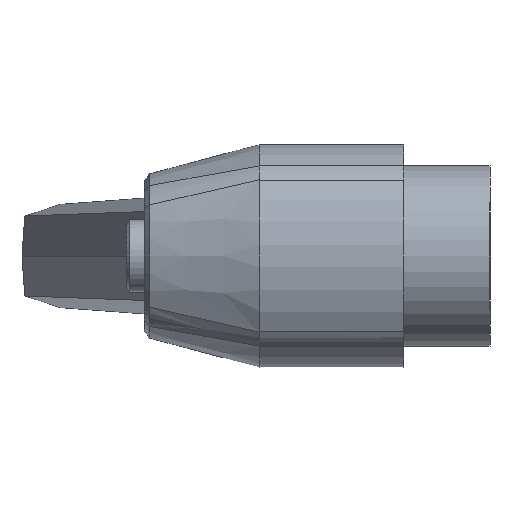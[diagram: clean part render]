
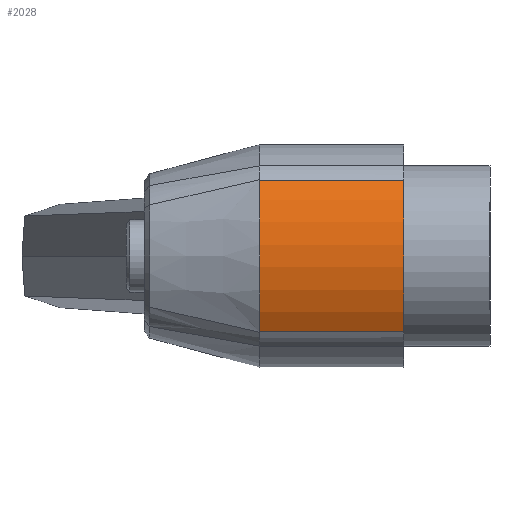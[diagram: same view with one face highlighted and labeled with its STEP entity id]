
A CAD part, left-side view. The second image highlights one B-rep face of the part: STEP entity #2028.
In plain terms, the highlighted cylindrical face has radius 20.318 mm (diameter 40.637 mm), a partial arc.
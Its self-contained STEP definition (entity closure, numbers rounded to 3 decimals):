
#76 = CARTESIAN_POINT ( 'NONE',  ( -12.555, 0., 10.536 ) ) ;
#83 = CARTESIAN_POINT ( 'NONE',  ( -12.555, 20., -10.536 ) ) ;
#126 = DIRECTION ( 'NONE',  ( 0., 0., 1. ) ) ;
#141 = LINE ( 'NONE', #659, #321 ) ;
#172 = CARTESIAN_POINT ( 'NONE',  ( -12.555, 20., -10.536 ) ) ;
#175 = CIRCLE ( 'NONE', #1437, 20.318 ) ;
#215 = VERTEX_POINT ( 'NONE', #1216 ) ;
#321 = VECTOR ( 'NONE', #694, 1000. ) ;
#360 = VECTOR ( 'NONE', #602, 1000. ) ;
#485 = DIRECTION ( 'NONE',  ( 0., 0., -1. ) ) ;
#602 = DIRECTION ( 'NONE',  ( 0., -1., 0. ) ) ;
#606 = DIRECTION ( 'NONE',  ( 0., -1., 0. ) ) ;
#645 = DIRECTION ( 'NONE',  ( 0., 1., 0. ) ) ;
#659 = CARTESIAN_POINT ( 'NONE',  ( -12.555, 20., 10.536 ) ) ;
#694 = DIRECTION ( 'NONE',  ( 0., 1., 0. ) ) ;
#714 = CARTESIAN_POINT ( 'NONE',  ( -12.555, 20., 10.536 ) ) ;
#721 = VERTEX_POINT ( 'NONE', #172 ) ;
#886 = CIRCLE ( 'NONE', #2125, 20.318 ) ;
#977 = ORIENTED_EDGE ( 'NONE', *, *, #1201, .T. ) ;
#1174 = ORIENTED_EDGE ( 'NONE', *, *, #1694, .F. ) ;
#1201 = EDGE_CURVE ( 'NONE', #2099, #1467, #141, .T. ) ;
#1216 = CARTESIAN_POINT ( 'NONE',  ( -12.555, 0., -10.536 ) ) ;
#1266 = EDGE_LOOP ( 'NONE', ( #1174, #1549, #1845, #977 ) ) ;
#1384 = EDGE_CURVE ( 'NONE', #215, #2099, #175, .T. ) ;
#1412 = CYLINDRICAL_SURFACE ( 'NONE', #1546, 20.318 ) ;
#1430 = LINE ( 'NONE', #83, #360 ) ;
#1437 = AXIS2_PLACEMENT_3D ( 'NONE', #1853, #645, #126 ) ;
#1467 = VERTEX_POINT ( 'NONE', #714 ) ;
#1497 = CARTESIAN_POINT ( 'NONE',  ( 4.818, 20., 0. ) ) ;
#1546 = AXIS2_PLACEMENT_3D ( 'NONE', #1633, #606, #1757 ) ;
#1549 = ORIENTED_EDGE ( 'NONE', *, *, #1625, .T. ) ;
#1565 = FACE_OUTER_BOUND ( 'NONE', #1266, .T. ) ;
#1625 = EDGE_CURVE ( 'NONE', #721, #215, #1430, .T. ) ;
#1633 = CARTESIAN_POINT ( 'NONE',  ( 4.818, 20., 0. ) ) ;
#1694 = EDGE_CURVE ( 'NONE', #721, #1467, #886, .T. ) ;
#1757 = DIRECTION ( 'NONE',  ( 0., 0., -1. ) ) ;
#1845 = ORIENTED_EDGE ( 'NONE', *, *, #1384, .T. ) ;
#1853 = CARTESIAN_POINT ( 'NONE',  ( 4.818, 0., 0. ) ) ;
#2020 = DIRECTION ( 'NONE',  ( 0., 1., 0. ) ) ;
#2028 = ADVANCED_FACE ( 'NONE', ( #1565 ), #1412, .T. ) ;
#2099 = VERTEX_POINT ( 'NONE', #76 ) ;
#2125 = AXIS2_PLACEMENT_3D ( 'NONE', #1497, #2020, #485 ) ;
